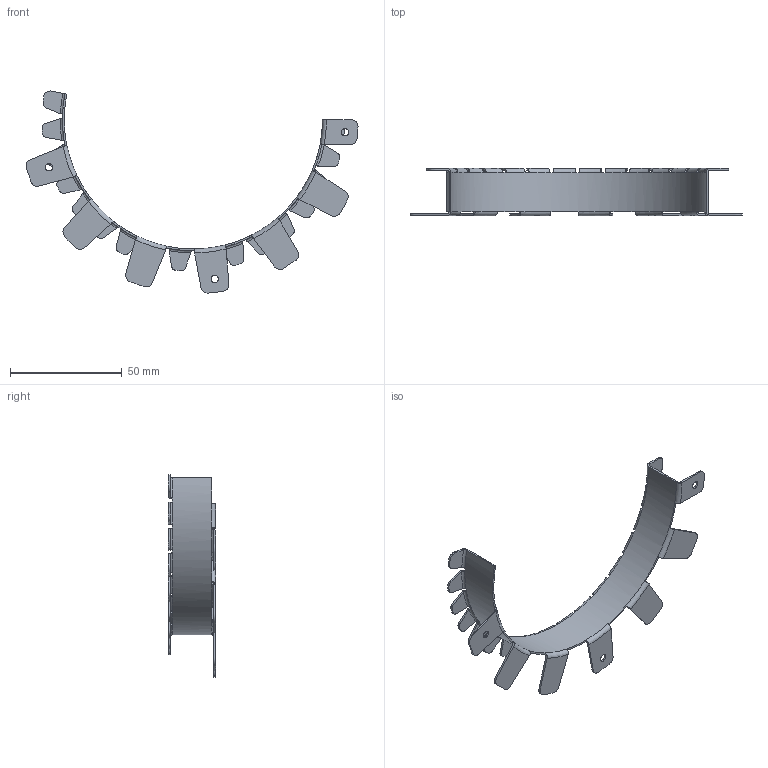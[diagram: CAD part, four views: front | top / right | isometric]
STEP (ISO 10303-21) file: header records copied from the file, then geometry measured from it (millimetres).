
FILE_DESCRIPTION((''),'2;1');
FILE_NAME('C:\Daten\CAD.de\Beispiele\Blech\Abwicklung\so-genannte-Schiene-070607.stp','2007-06-07T15:54:15',('Roland'),(''),'Autodesk Inventor 11','Autodesk Inventor 11','');
FILE_SCHEMA(('AUTOMOTIVE_DESIGN { 1 0 10303 214 1 1 1 1 }'));
Length unit declared in the file: millimetre
Products named in the file (1): Schiene
Bounding box: 148.46 x 21.1 x 90.36 mm (x, y, z)
Volume: 5296.5 mm3; surface area: 14036.1 mm2
Topology: 1 solids, 1 shells, 296 faces, 690 edges, 396 vertices
Faces by surface type: plane 113, bspline 82, cylinder 53, torus 48
Full cylindrical faces by diameter (mm): 3.3 x3
Entity records: 10672 total; most frequent: CARTESIAN_POINT 4182, ORIENTED_EDGE 1374, DIRECTION 1343, EDGE_CURVE 687, AXIS2_PLACEMENT_3D 569, VERTEX_POINT 396, CIRCLE 354, EDGE_LOOP 305
